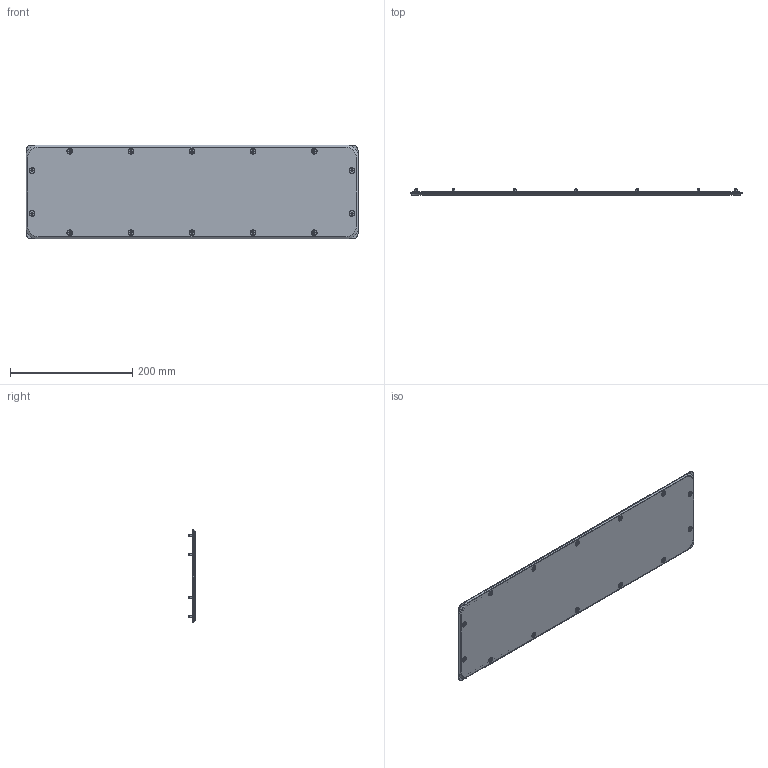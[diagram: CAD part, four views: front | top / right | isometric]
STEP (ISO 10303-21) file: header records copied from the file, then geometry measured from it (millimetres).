
FILE_DESCRIPTION (( 'STEP AP203' ), '1' );
FILE_NAME ('R5FSST03.STEP', '2024-03-22T08:53:38', ( '' ), ( '' ), 'SwSTEP 2.0', 'SolidWorks 2022', '' );
FILE_SCHEMA (( 'CONFIG_CONTROL_DESIGN' ));
Length unit declared in the file: millimetre
Products named in the file (5): R5FSST03; PF 4x8 flange ST_04; RB.0048.11.00.0 CБ_-04; M4x10 DIN 7500 M PZ cl.4,8 Zinc_straight; RB.0048.11.01.0_-04
Assembly tree (17 placements, depth 3):
  R5FSST03
    RB.0048.11.00.0 CБ_-04
      RB.0048.11.01.0_-04
      PF 4x8 flange ST_04
    M4x10 DIN 7500 M PZ cl.4,8 Zinc_straight  x14
Bounding box: 543 x 10 x 153 mm (x, y, z)
Volume: 152661.5 mm3; surface area: 197356 mm2
Topology: 16 solids, 16 shells, 672 faces, 1573 edges, 933 vertices
Faces by surface type: plane 296, cone 200, torus 96, cylinder 76, bspline 4
Entity records: 8112 total; most frequent: CARTESIAN_POINT 1690, DIRECTION 1331, ORIENTED_EDGE 1062, AXIS2_PLACEMENT_3D 571, EDGE_CURVE 531, CIRCLE 324, VERTEX_POINT 322, EDGE_LOOP 275
